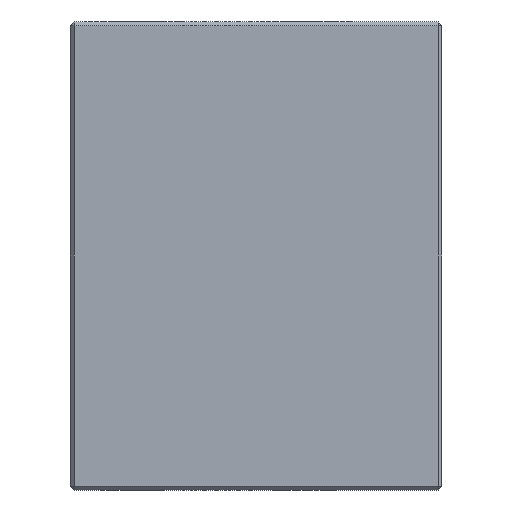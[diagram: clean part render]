
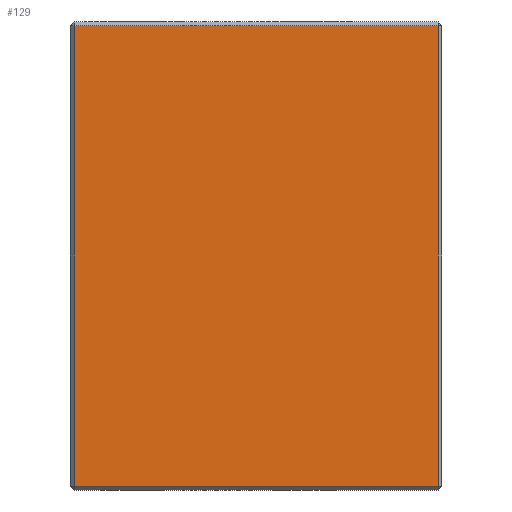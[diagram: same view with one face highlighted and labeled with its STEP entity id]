
A CAD part, front view. The second image highlights one B-rep face of the part: STEP entity #129.
In plain terms, the highlighted planar face has unit normal (0, -1, 0).
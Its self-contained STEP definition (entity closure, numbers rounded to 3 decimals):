
#129=ADVANCED_FACE('',(#726),#728,.T.);
#726=FACE_BOUND('',#727,.T.);
#727=EDGE_LOOP('',(#1219,#1220,#1221,#1222));
#728=PLANE('',#729);
#729=AXIS2_PLACEMENT_3D('',#730,#731,#732);
#730=CARTESIAN_POINT('',(-50.,-85.,63.));
#731=DIRECTION('',(0.,-1.,0.));
#732=DIRECTION('',(0.,0.,-1.));
#1219=ORIENTED_EDGE('',*,*,#1397,.T.);
#1220=ORIENTED_EDGE('',*,*,#1398,.F.);
#1221=ORIENTED_EDGE('',*,*,#1399,.F.);
#1222=ORIENTED_EDGE('',*,*,#1400,.T.);
#1397=EDGE_CURVE('',#1516,#1517,#1518,.T.);
#1398=EDGE_CURVE('',#1519,#1517,#1520,.T.);
#1399=EDGE_CURVE('',#1521,#1519,#1522,.T.);
#1400=EDGE_CURVE('',#1521,#1516,#1523,.T.);
#1516=VERTEX_POINT('',#1745);
#1517=VERTEX_POINT('',#1746);
#1518=LINE('',#1747,#1748);
#1519=VERTEX_POINT('',#1750);
#1520=LINE('',#1751,#1752);
#1521=VERTEX_POINT('',#1754);
#1522=LINE('',#1755,#1756);
#1523=LINE('',#1758,#1759);
#1745=CARTESIAN_POINT('',(-49.,-85.,-62.));
#1746=CARTESIAN_POINT('',(49.,-85.,-62.));
#1747=CARTESIAN_POINT('',(-49.,-85.,-62.));
#1748=VECTOR('',#1749,1.);
#1749=DIRECTION('',(1.,0.,0.));
#1750=CARTESIAN_POINT('',(49.,-85.,62.));
#1751=CARTESIAN_POINT('',(49.,-85.,62.));
#1752=VECTOR('',#1753,1.);
#1753=DIRECTION('',(0.,0.,-1.));
#1754=CARTESIAN_POINT('',(-49.,-85.,62.));
#1755=CARTESIAN_POINT('',(-49.,-85.,62.));
#1756=VECTOR('',#1757,1.);
#1757=DIRECTION('',(1.,0.,0.));
#1758=CARTESIAN_POINT('',(-49.,-85.,62.));
#1759=VECTOR('',#1760,1.);
#1760=DIRECTION('',(0.,0.,-1.));
